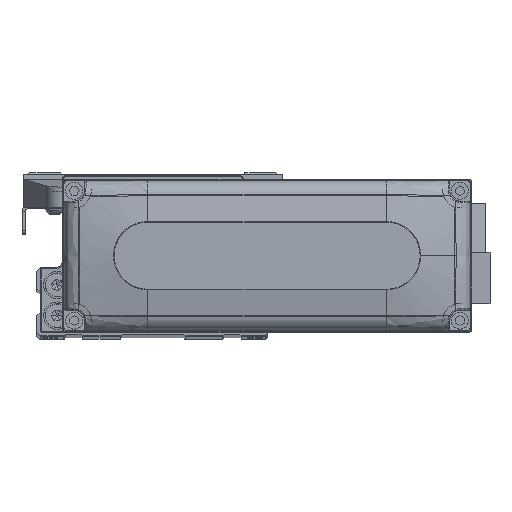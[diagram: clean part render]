
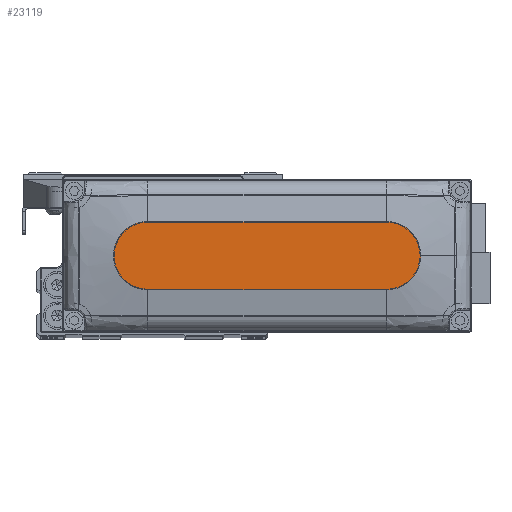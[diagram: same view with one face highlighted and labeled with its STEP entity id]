
A CAD part, top view. The second image highlights one B-rep face of the part: STEP entity #23119.
In plain terms, the highlighted planar face has unit normal (0, 0, 1).
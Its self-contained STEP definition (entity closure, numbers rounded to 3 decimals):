
#498 = CARTESIAN_POINT ( 'NONE',  ( -35., 10., 28. ) ) ;
#2115 = CARTESIAN_POINT ( 'NONE',  ( 0., 0., 28. ) ) ;
#3278 = VECTOR ( 'NONE', #25647, 1000. ) ;
#3686 = VERTEX_POINT ( 'NONE', #12313 ) ;
#4876 = DIRECTION ( 'NONE',  ( 0., 0., 1. ) ) ;
#5268 = EDGE_CURVE ( 'NONE', #24012, #40332, #28651, .T. ) ;
#5987 = CARTESIAN_POINT ( 'NONE',  ( 45., 0., 28. ) ) ;
#7033 = DIRECTION ( 'NONE',  ( -1., 0., 0. ) ) ;
#7749 = CARTESIAN_POINT ( 'NONE',  ( 35., 0., 28. ) ) ;
#8356 = DIRECTION ( 'NONE',  ( 1., 0., 0. ) ) ;
#9247 = AXIS2_PLACEMENT_3D ( 'NONE', #7749, #21502, #35223 ) ;
#10636 = ORIENTED_EDGE ( 'NONE', *, *, #24734, .T. ) ;
#10948 = EDGE_LOOP ( 'NONE', ( #41365, #10636, #15005, #19354, #26873 ) ) ;
#11913 = CARTESIAN_POINT ( 'NONE',  ( -35., -10., 28. ) ) ;
#12313 = CARTESIAN_POINT ( 'NONE',  ( -35., -10., 28. ) ) ;
#12557 = EDGE_CURVE ( 'NONE', #40332, #24596, #24155, .T. ) ;
#15005 = ORIENTED_EDGE ( 'NONE', *, *, #23408, .T. ) ;
#15845 = DIRECTION ( 'NONE',  ( 0., 0., 1. ) ) ;
#18610 = DIRECTION ( 'NONE',  ( 1., 0., 0. ) ) ;
#19216 = FACE_OUTER_BOUND ( 'NONE', #10948, .T. ) ;
#19354 = ORIENTED_EDGE ( 'NONE', *, *, #21394, .T. ) ;
#21213 = CARTESIAN_POINT ( 'NONE',  ( 35., -10., 28. ) ) ;
#21382 = VECTOR ( 'NONE', #7033, 1000. ) ;
#21394 = EDGE_CURVE ( 'NONE', #25919, #24012, #41020, .T. ) ;
#21502 = DIRECTION ( 'NONE',  ( 0., 0., 1. ) ) ;
#21641 = AXIS2_PLACEMENT_3D ( 'NONE', #35704, #4876, #18610 ) ;
#21944 = AXIS2_PLACEMENT_3D ( 'NONE', #2115, #15845, #29577 ) ;
#22782 = AXIS2_PLACEMENT_3D ( 'NONE', #25485, #39190, #8356 ) ;
#23119 = ADVANCED_FACE ( 'NONE', ( #19216 ), #32927, .T. ) ;
#23408 = EDGE_CURVE ( 'NONE', #3686, #25919, #42730, .T. ) ;
#24012 = VERTEX_POINT ( 'NONE', #5987 ) ;
#24155 = LINE ( 'NONE', #37880, #21382 ) ;
#24596 = VERTEX_POINT ( 'NONE', #498 ) ;
#24734 = EDGE_CURVE ( 'NONE', #24596, #3686, #42176, .T. ) ;
#25485 = CARTESIAN_POINT ( 'NONE',  ( -35., 0., 28. ) ) ;
#25647 = DIRECTION ( 'NONE',  ( 1., 0., 0. ) ) ;
#25919 = VERTEX_POINT ( 'NONE', #21213 ) ;
#26873 = ORIENTED_EDGE ( 'NONE', *, *, #5268, .T. ) ;
#28651 = CIRCLE ( 'NONE', #9247, 10. ) ;
#29577 = DIRECTION ( 'NONE',  ( 1., 0., 0. ) ) ;
#30300 = CARTESIAN_POINT ( 'NONE',  ( 35., 10., 28. ) ) ;
#32927 = PLANE ( 'NONE',  #21944 ) ;
#35223 = DIRECTION ( 'NONE',  ( 1., 0., 0. ) ) ;
#35704 = CARTESIAN_POINT ( 'NONE',  ( 35., 0., 28. ) ) ;
#37880 = CARTESIAN_POINT ( 'NONE',  ( -35., 10., 28. ) ) ;
#39190 = DIRECTION ( 'NONE',  ( 0., 0., 1. ) ) ;
#40332 = VERTEX_POINT ( 'NONE', #30300 ) ;
#41020 = CIRCLE ( 'NONE', #21641, 10. ) ;
#41365 = ORIENTED_EDGE ( 'NONE', *, *, #12557, .T. ) ;
#42176 = CIRCLE ( 'NONE', #22782, 10. ) ;
#42730 = LINE ( 'NONE', #11913, #3278 ) ;
